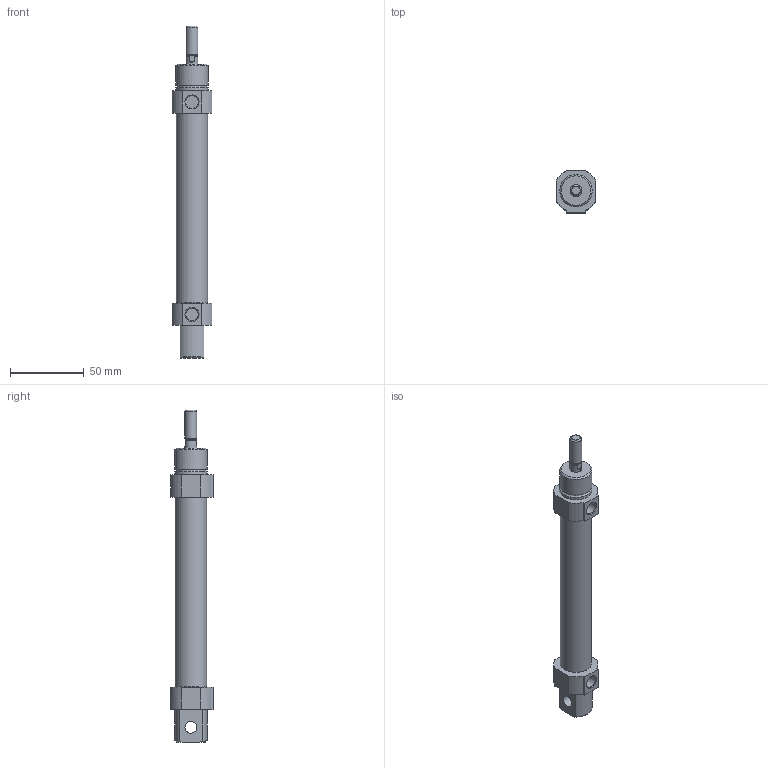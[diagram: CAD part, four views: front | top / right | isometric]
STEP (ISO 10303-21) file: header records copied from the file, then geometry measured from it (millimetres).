
FILE_DESCRIPTION((''),'2;1');
FILE_NAME('I:\3D電子目錄\氣缸\SDA\SDA20\SDA20\SDA20x100.stp','2007-08-06T10:31:51',('Administrator'),(''),'Autodesk Inventor 2008','Autodesk Inventor 2008','');
FILE_SCHEMA(('AUTOMOTIVE_DESIGN { 1 0 10303 214 1 1 1 1 }'));
Length unit declared in the file: millimetre
Products named in the file (1): SDA20X100
Bounding box: 27 x 28.5 x 225 mm (x, y, z)
Volume: 78754.5 mm3; surface area: 17697.3 mm2
Topology: 1 solids, 1 shells, 62 faces, 146 edges, 94 vertices
Faces by surface type: plane 30, cylinder 19, cone 10, bspline 2, torus 1
Full cylindrical faces by diameter (mm): 6.6 x1, 8 x3, 8.5 x2, 21.2 x1, 22 x2
Entity records: 1718 total; most frequent: CARTESIAN_POINT 307, DIRECTION 298, ORIENTED_EDGE 258, EDGE_CURVE 129, AXIS2_PLACEMENT_3D 116, VERTEX_POINT 93, EDGE_LOOP 88, VECTOR 66
